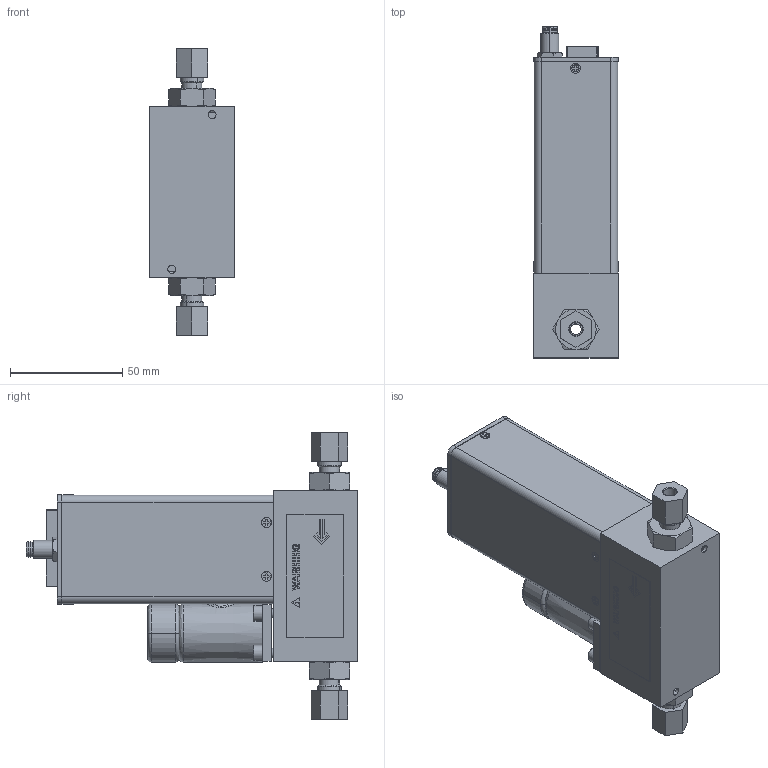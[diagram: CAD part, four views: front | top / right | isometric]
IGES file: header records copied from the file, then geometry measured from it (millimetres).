
Start section: SolidWorks IGES file using analytic representation for surfaces
Global section: file name: G:\Engineering\CAD MODELS FOR SALES\CAD MODEL STORAGE\SLA\SLA5850\IGES\SLA5850-8-1H-1-A-REVB.IGS; native system: SolidWorks 2019; preprocessor: SolidWorks 2019; author: CFehr; date: 200904.131037; units: inch
Bounding box: 38.07 x 147.97 x 127.75 mm (x, y, z)
Volume: 68864.8 mm3; surface area: 100178.1 mm2
Topology: 54 solids, 54 shells, 2310 faces, 6249 edges, 3943 vertices
Faces by surface type: plane 1425, revolution 706, bspline 179
